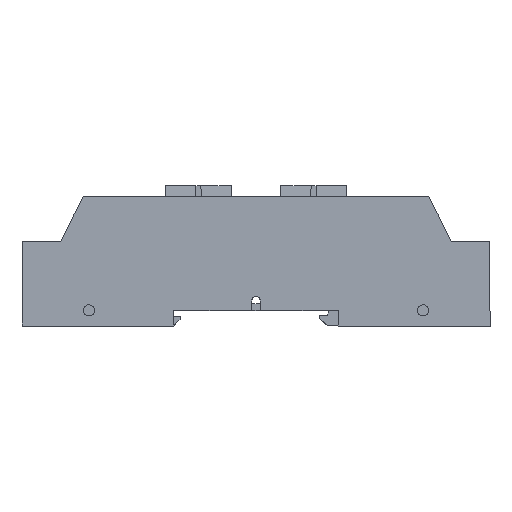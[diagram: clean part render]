
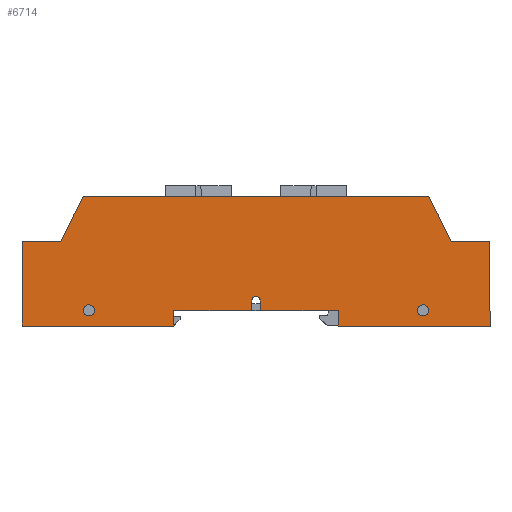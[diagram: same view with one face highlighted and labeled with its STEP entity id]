
A CAD part, top view. The second image highlights one B-rep face of the part: STEP entity #6714.
In plain terms, the highlighted planar face has unit normal (0, 0, 1).
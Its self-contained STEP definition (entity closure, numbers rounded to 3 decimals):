
#84 = DIRECTION ( 'NONE',  ( 0., -1., 0. ) ) ;
#154 = ORIENTED_EDGE ( 'NONE', *, *, #6254, .T. ) ;
#358 = LINE ( 'NONE', #11056, #2582 ) ;
#507 = CARTESIAN_POINT ( 'NONE',  ( -38.74, 29., 41.5 ) ) ;
#554 = EDGE_CURVE ( 'NONE', #4595, #3921, #8284, .T. ) ;
#569 = CARTESIAN_POINT ( 'NONE',  ( -52.5, 3.5, 41.5 ) ) ;
#581 = LINE ( 'NONE', #8666, #6437 ) ;
#608 = ORIENTED_EDGE ( 'NONE', *, *, #8529, .T. ) ;
#681 = EDGE_CURVE ( 'NONE', #2576, #7773, #7589, .T. ) ;
#696 = LINE ( 'NONE', #8045, #4002 ) ;
#787 = EDGE_LOOP ( 'NONE', ( #7266 ) ) ;
#899 = EDGE_CURVE ( 'NONE', #9382, #3964, #12407, .T. ) ;
#957 = CIRCLE ( 'NONE', #3568, 1.25 ) ;
#1069 = CARTESIAN_POINT ( 'NONE',  ( -52.5, 0., 41.5 ) ) ;
#1185 = DIRECTION ( 'NONE',  ( -1., 0., 0. ) ) ;
#1229 = ORIENTED_EDGE ( 'NONE', *, *, #5818, .T. ) ;
#1299 = CARTESIAN_POINT ( 'NONE',  ( 0.899, 5.839, 41.5 ) ) ;
#1380 = VECTOR ( 'NONE', #84, 1000. ) ;
#1393 = EDGE_CURVE ( 'NONE', #7773, #11157, #358, .T. ) ;
#1625 = ORIENTED_EDGE ( 'NONE', *, *, #681, .T. ) ;
#1684 = LINE ( 'NONE', #6336, #9668 ) ;
#1983 = CARTESIAN_POINT ( 'NONE',  ( -52.5, 3.5, 41.5 ) ) ;
#2080 = CARTESIAN_POINT ( 'NONE',  ( 0.899, 5.839, 41.5 ) ) ;
#2204 = DIRECTION ( 'NONE',  ( -1., 0., 0. ) ) ;
#2222 = VERTEX_POINT ( 'NONE', #2080 ) ;
#2240 = VECTOR ( 'NONE', #3336, 1000. ) ;
#2246 = DIRECTION ( 'NONE',  ( -1., 0., 0. ) ) ;
#2375 = CARTESIAN_POINT ( 'NONE',  ( -52.5, 19., 41.5 ) ) ;
#2397 = PLANE ( 'NONE',  #8367 ) ;
#2419 = LINE ( 'NONE', #3395, #10990 ) ;
#2574 = FACE_BOUND ( 'NONE', #787, .T. ) ;
#2576 = VERTEX_POINT ( 'NONE', #4170 ) ;
#2582 = VECTOR ( 'NONE', #5488, 1000. ) ;
#2659 = ORIENTED_EDGE ( 'NONE', *, *, #1393, .T. ) ;
#2938 = CARTESIAN_POINT ( 'NONE',  ( -43.86, 19., 41.5 ) ) ;
#3035 = VERTEX_POINT ( 'NONE', #3204 ) ;
#3183 = EDGE_LOOP ( 'NONE', ( #9128, #11232, #608, #7103, #8390, #8917, #6656, #1229, #1625, #2659, #12072, #6344, #7430, #5497, #154, #11739 ) ) ;
#3202 = VERTEX_POINT ( 'NONE', #6786 ) ;
#3204 = CARTESIAN_POINT ( 'NONE',  ( -18.5, 0., 41.5 ) ) ;
#3336 = DIRECTION ( 'NONE',  ( 1., 0., 0. ) ) ;
#3395 = CARTESIAN_POINT ( 'NONE',  ( -38.74, 29., 41.5 ) ) ;
#3568 = AXIS2_PLACEMENT_3D ( 'NONE', #9930, #6846, #2246 ) ;
#3921 = VERTEX_POINT ( 'NONE', #7590 ) ;
#3939 = VECTOR ( 'NONE', #7086, 1000. ) ;
#3964 = VERTEX_POINT ( 'NONE', #11315 ) ;
#4002 = VECTOR ( 'NONE', #10624, 1000. ) ;
#4170 = CARTESIAN_POINT ( 'NONE',  ( 43.86, 19., 41.5 ) ) ;
#4246 = CARTESIAN_POINT ( 'NONE',  ( -52.5, 19., 41.5 ) ) ;
#4261 = DIRECTION ( 'NONE',  ( 0., 0., -1. ) ) ;
#4268 = VERTEX_POINT ( 'NONE', #8378 ) ;
#4595 = VERTEX_POINT ( 'NONE', #5108 ) ;
#4660 = VECTOR ( 'NONE', #12376, 1000. ) ;
#4864 = FACE_BOUND ( 'NONE', #5166, .T. ) ;
#4950 = DIRECTION ( 'NONE',  ( 0., 0., 1. ) ) ;
#5108 = CARTESIAN_POINT ( 'NONE',  ( -18.5, 3.5, 41.5 ) ) ;
#5166 = EDGE_LOOP ( 'NONE', ( #8610 ) ) ;
#5191 = VECTOR ( 'NONE', #6893, 1000. ) ;
#5312 = CARTESIAN_POINT ( 'NONE',  ( -52.5, 19., 41.5 ) ) ;
#5374 = DIRECTION ( 'NONE',  ( 1., 0., 0. ) ) ;
#5479 = CARTESIAN_POINT ( 'NONE',  ( 52.5, 0., 41.5 ) ) ;
#5480 = EDGE_CURVE ( 'NONE', #10526, #10526, #957, .T. ) ;
#5488 = DIRECTION ( 'NONE',  ( -1., 0., 0. ) ) ;
#5497 = ORIENTED_EDGE ( 'NONE', *, *, #7683, .T. ) ;
#5595 = CIRCLE ( 'NONE', #10242, 0.9 ) ;
#5690 = CARTESIAN_POINT ( 'NONE',  ( 1.001, 3.5, 41.5 ) ) ;
#5717 = CIRCLE ( 'NONE', #11121, 1.25 ) ;
#5818 = EDGE_CURVE ( 'NONE', #4268, #2576, #10314, .T. ) ;
#6124 = EDGE_CURVE ( 'NONE', #7182, #4268, #6943, .T. ) ;
#6216 = VERTEX_POINT ( 'NONE', #2938 ) ;
#6254 = EDGE_CURVE ( 'NONE', #3035, #4595, #581, .T. ) ;
#6336 = CARTESIAN_POINT ( 'NONE',  ( -52.5, 0., 41.5 ) ) ;
#6344 = ORIENTED_EDGE ( 'NONE', *, *, #9450, .T. ) ;
#6362 = VECTOR ( 'NONE', #10682, 1000. ) ;
#6437 = VECTOR ( 'NONE', #10818, 1000. ) ;
#6656 = ORIENTED_EDGE ( 'NONE', *, *, #6124, .T. ) ;
#6714 = ADVANCED_FACE ( 'NONE', ( #11567, #4864, #2574 ), #2397, .T. ) ;
#6786 = CARTESIAN_POINT ( 'NONE',  ( -38.75, 3.5, 41.5 ) ) ;
#6808 = VERTEX_POINT ( 'NONE', #8235 ) ;
#6846 = DIRECTION ( 'NONE',  ( 0., 0., -1. ) ) ;
#6893 = DIRECTION ( 'NONE',  ( 1., 0., 0. ) ) ;
#6913 = LINE ( 'NONE', #10725, #7212 ) ;
#6943 = LINE ( 'NONE', #9407, #6362 ) ;
#7010 = VECTOR ( 'NONE', #11888, 1000. ) ;
#7047 = CARTESIAN_POINT ( 'NONE',  ( 0., 5.8, 41.5 ) ) ;
#7086 = DIRECTION ( 'NONE',  ( 0.044, -0.999, 0. ) ) ;
#7103 = ORIENTED_EDGE ( 'NONE', *, *, #899, .T. ) ;
#7154 = DIRECTION ( 'NONE',  ( 1., 0., 0. ) ) ;
#7164 = DIRECTION ( 'NONE',  ( 0., 0., -1. ) ) ;
#7182 = VERTEX_POINT ( 'NONE', #5479 ) ;
#7212 = VECTOR ( 'NONE', #11245, 1000. ) ;
#7266 = ORIENTED_EDGE ( 'NONE', *, *, #7671, .T. ) ;
#7376 = DIRECTION ( 'NONE',  ( -0.456, -0.89, 0. ) ) ;
#7380 = EDGE_CURVE ( 'NONE', #6808, #7182, #9057, .T. ) ;
#7430 = ORIENTED_EDGE ( 'NONE', *, *, #10775, .T. ) ;
#7501 = DIRECTION ( 'NONE',  ( 1., 0., 0. ) ) ;
#7589 = LINE ( 'NONE', #12362, #7010 ) ;
#7590 = CARTESIAN_POINT ( 'NONE',  ( -1.001, 3.5, 41.5 ) ) ;
#7671 = EDGE_CURVE ( 'NONE', #3202, #3202, #5717, .T. ) ;
#7681 = EDGE_CURVE ( 'NONE', #3964, #6808, #9370, .T. ) ;
#7683 = EDGE_CURVE ( 'NONE', #10229, #3035, #1684, .T. ) ;
#7733 = CARTESIAN_POINT ( 'NONE',  ( 18.5, 19., 41.5 ) ) ;
#7773 = VERTEX_POINT ( 'NONE', #12130 ) ;
#8021 = EDGE_CURVE ( 'NONE', #11852, #2222, #5595, .T. ) ;
#8045 = CARTESIAN_POINT ( 'NONE',  ( -52.5, 19., 41.5 ) ) ;
#8088 = CARTESIAN_POINT ( 'NONE',  ( 36.25, 3.5, 41.5 ) ) ;
#8235 = CARTESIAN_POINT ( 'NONE',  ( 18.5, 0., 41.5 ) ) ;
#8284 = LINE ( 'NONE', #1983, #5191 ) ;
#8334 = DIRECTION ( 'NONE',  ( -1., 0., 0. ) ) ;
#8367 = AXIS2_PLACEMENT_3D ( 'NONE', #4246, #4950, #7154 ) ;
#8378 = CARTESIAN_POINT ( 'NONE',  ( 52.5, 19., 41.5 ) ) ;
#8390 = ORIENTED_EDGE ( 'NONE', *, *, #7681, .T. ) ;
#8529 = EDGE_CURVE ( 'NONE', #2222, #9382, #10944, .T. ) ;
#8610 = ORIENTED_EDGE ( 'NONE', *, *, #5480, .T. ) ;
#8666 = CARTESIAN_POINT ( 'NONE',  ( -18.5, 19., 41.5 ) ) ;
#8820 = CARTESIAN_POINT ( 'NONE',  ( -0.899, 5.839, 41.5 ) ) ;
#8917 = ORIENTED_EDGE ( 'NONE', *, *, #7380, .T. ) ;
#8968 = VERTEX_POINT ( 'NONE', #10782 ) ;
#8976 = EDGE_CURVE ( 'NONE', #11157, #6216, #2419, .T. ) ;
#9057 = LINE ( 'NONE', #10336, #2240 ) ;
#9128 = ORIENTED_EDGE ( 'NONE', *, *, #12541, .T. ) ;
#9370 = LINE ( 'NONE', #7733, #1380 ) ;
#9382 = VERTEX_POINT ( 'NONE', #5690 ) ;
#9407 = CARTESIAN_POINT ( 'NONE',  ( 52.5, 19., 41.5 ) ) ;
#9450 = EDGE_CURVE ( 'NONE', #6216, #8968, #10141, .T. ) ;
#9579 = VECTOR ( 'NONE', #8334, 1000. ) ;
#9668 = VECTOR ( 'NONE', #7501, 1000. ) ;
#9930 = CARTESIAN_POINT ( 'NONE',  ( 37.5, 3.5, 41.5 ) ) ;
#10141 = LINE ( 'NONE', #2375, #9579 ) ;
#10229 = VERTEX_POINT ( 'NONE', #1069 ) ;
#10242 = AXIS2_PLACEMENT_3D ( 'NONE', #7047, #7164, #5374 ) ;
#10314 = LINE ( 'NONE', #5312, #10690 ) ;
#10336 = CARTESIAN_POINT ( 'NONE',  ( -52.5, 0., 41.5 ) ) ;
#10526 = VERTEX_POINT ( 'NONE', #8088 ) ;
#10592 = CARTESIAN_POINT ( 'NONE',  ( -37.5, 3.5, 41.5 ) ) ;
#10624 = DIRECTION ( 'NONE',  ( 0., -1., 0. ) ) ;
#10682 = DIRECTION ( 'NONE',  ( 0., 1., 0. ) ) ;
#10690 = VECTOR ( 'NONE', #2204, 1000. ) ;
#10725 = CARTESIAN_POINT ( 'NONE',  ( -1.001, 3.5, 41.5 ) ) ;
#10775 = EDGE_CURVE ( 'NONE', #8968, #10229, #696, .T. ) ;
#10782 = CARTESIAN_POINT ( 'NONE',  ( -52.5, 19., 41.5 ) ) ;
#10818 = DIRECTION ( 'NONE',  ( 0., 1., 0. ) ) ;
#10944 = LINE ( 'NONE', #1299, #3939 ) ;
#10990 = VECTOR ( 'NONE', #7376, 1000. ) ;
#11056 = CARTESIAN_POINT ( 'NONE',  ( -52.5, 29., 41.5 ) ) ;
#11121 = AXIS2_PLACEMENT_3D ( 'NONE', #10592, #4261, #1185 ) ;
#11157 = VERTEX_POINT ( 'NONE', #507 ) ;
#11232 = ORIENTED_EDGE ( 'NONE', *, *, #8021, .T. ) ;
#11245 = DIRECTION ( 'NONE',  ( 0.044, 0.999, 0. ) ) ;
#11315 = CARTESIAN_POINT ( 'NONE',  ( 18.5, 3.5, 41.5 ) ) ;
#11567 = FACE_OUTER_BOUND ( 'NONE', #3183, .T. ) ;
#11739 = ORIENTED_EDGE ( 'NONE', *, *, #554, .T. ) ;
#11852 = VERTEX_POINT ( 'NONE', #8820 ) ;
#11888 = DIRECTION ( 'NONE',  ( -0.456, 0.89, 0. ) ) ;
#12072 = ORIENTED_EDGE ( 'NONE', *, *, #8976, .T. ) ;
#12130 = CARTESIAN_POINT ( 'NONE',  ( 38.74, 29., 41.5 ) ) ;
#12362 = CARTESIAN_POINT ( 'NONE',  ( 43.86, 19., 41.5 ) ) ;
#12376 = DIRECTION ( 'NONE',  ( 1., 0., 0. ) ) ;
#12407 = LINE ( 'NONE', #569, #4660 ) ;
#12541 = EDGE_CURVE ( 'NONE', #3921, #11852, #6913, .T. ) ;
